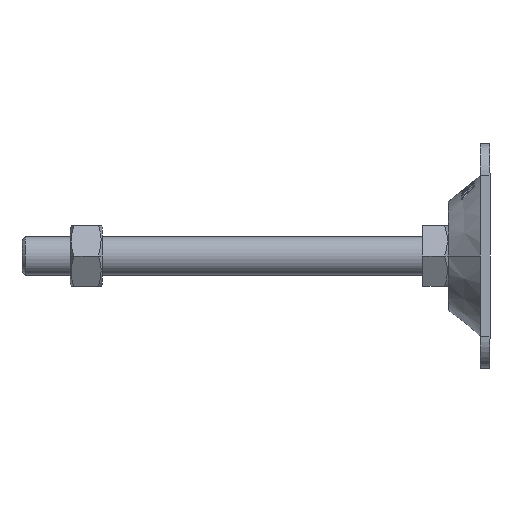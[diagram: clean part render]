
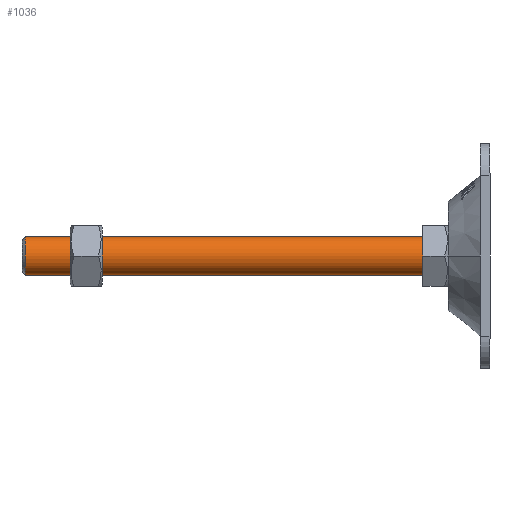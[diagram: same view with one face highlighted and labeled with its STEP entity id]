
A CAD part, left-side view. The second image highlights one B-rep face of the part: STEP entity #1036.
In plain terms, the highlighted cylindrical face has radius 6 mm (diameter 12 mm), a partial arc.
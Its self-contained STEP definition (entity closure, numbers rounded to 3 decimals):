
#6 = CARTESIAN_POINT ( 'NONE',  ( 0., 132., -6. ) ) ;
#162 = DIRECTION ( 'NONE',  ( 0., 1., 0. ) ) ;
#366 = FACE_OUTER_BOUND ( 'NONE', #2347, .T. ) ;
#392 = ORIENTED_EDGE ( 'NONE', *, *, #4708, .T. ) ;
#406 = CARTESIAN_POINT ( 'NONE',  ( 0., 132., 0. ) ) ;
#416 = CARTESIAN_POINT ( 'NONE',  ( 0., 8., 0. ) ) ;
#434 = DIRECTION ( 'NONE',  ( 0., -1., 0. ) ) ;
#526 = LINE ( 'NONE', #3222, #1406 ) ;
#1036 = ADVANCED_FACE ( 'NONE', ( #366 ), #5879, .T. ) ;
#1208 = CARTESIAN_POINT ( 'NONE',  ( 0., 8., 6. ) ) ;
#1406 = VECTOR ( 'NONE', #5025, 1000. ) ;
#1429 = CARTESIAN_POINT ( 'NONE',  ( 0., 132., 6. ) ) ;
#2076 = AXIS2_PLACEMENT_3D ( 'NONE', #406, #434, #5926 ) ;
#2118 = ORIENTED_EDGE ( 'NONE', *, *, #3447, .T. ) ;
#2347 = EDGE_LOOP ( 'NONE', ( #3971, #392, #2118, #5739 ) ) ;
#2452 = VECTOR ( 'NONE', #3106, 1000. ) ;
#2543 = DIRECTION ( 'NONE',  ( 0., -1., 0. ) ) ;
#2755 = CIRCLE ( 'NONE', #2076, 6. ) ;
#2785 = VERTEX_POINT ( 'NONE', #6 ) ;
#2993 = CARTESIAN_POINT ( 'NONE',  ( 0., 8., -6. ) ) ;
#3092 = VERTEX_POINT ( 'NONE', #2993 ) ;
#3106 = DIRECTION ( 'NONE',  ( 0., -1., 0. ) ) ;
#3222 = CARTESIAN_POINT ( 'NONE',  ( 0., 6., -6. ) ) ;
#3447 = EDGE_CURVE ( 'NONE', #2785, #3092, #526, .T. ) ;
#3520 = AXIS2_PLACEMENT_3D ( 'NONE', #416, #162, #4102 ) ;
#3869 = VERTEX_POINT ( 'NONE', #1208 ) ;
#3971 = ORIENTED_EDGE ( 'NONE', *, *, #4976, .F. ) ;
#4066 = AXIS2_PLACEMENT_3D ( 'NONE', #4917, #2543, #5825 ) ;
#4096 = CARTESIAN_POINT ( 'NONE',  ( 0., 6., 6. ) ) ;
#4102 = DIRECTION ( 'NONE',  ( 0., 0., 1. ) ) ;
#4408 = VERTEX_POINT ( 'NONE', #1429 ) ;
#4412 = EDGE_CURVE ( 'NONE', #3092, #3869, #4770, .T. ) ;
#4708 = EDGE_CURVE ( 'NONE', #4408, #2785, #2755, .T. ) ;
#4770 = CIRCLE ( 'NONE', #3520, 6. ) ;
#4917 = CARTESIAN_POINT ( 'NONE',  ( 0., 6., 0. ) ) ;
#4976 = EDGE_CURVE ( 'NONE', #4408, #3869, #5841, .T. ) ;
#5025 = DIRECTION ( 'NONE',  ( 0., -1., 0. ) ) ;
#5739 = ORIENTED_EDGE ( 'NONE', *, *, #4412, .T. ) ;
#5825 = DIRECTION ( 'NONE',  ( 0., 0., -1. ) ) ;
#5841 = LINE ( 'NONE', #4096, #2452 ) ;
#5879 = CYLINDRICAL_SURFACE ( 'NONE', #4066, 6. ) ;
#5926 = DIRECTION ( 'NONE',  ( 0., 0., -1. ) ) ;
